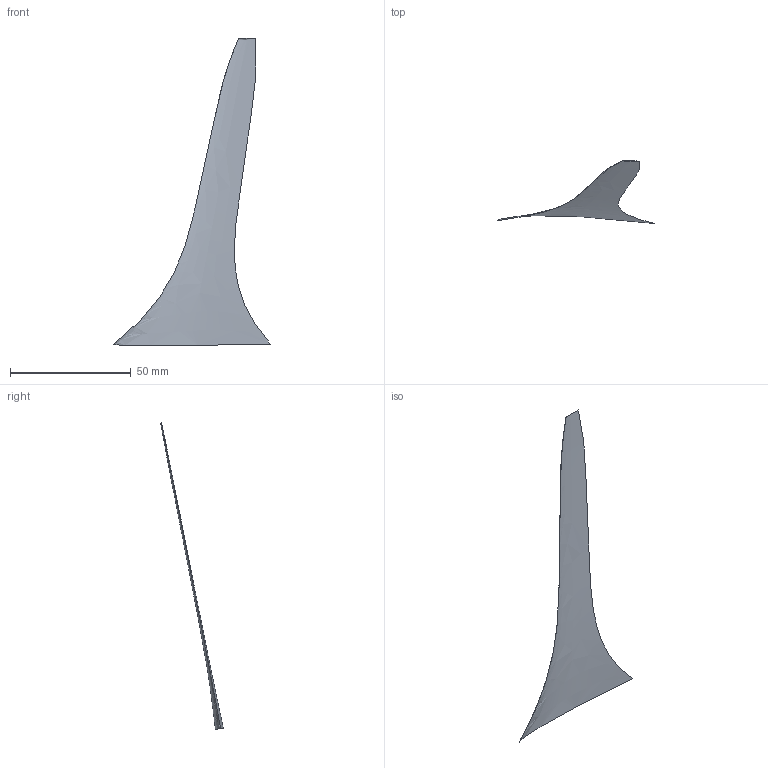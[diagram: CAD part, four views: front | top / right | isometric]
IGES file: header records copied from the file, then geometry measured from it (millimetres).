
Start section: This file was written from GridTool (For more information see ht tp://geolab.larc.nasa.gov/GridTool) or contact GridTool author: Jamshid Samareh (j.a.samareh@larc.nasa.gov)
Global section: file name: 47H/usr2/people/rosen/nets_pact/mx12_igs/wngl.igs; native system: Jamshid_system(j.a.samareh@larc.nasa.gov); preprocessor: V.0.0.0.0.0; author: Jamshid_Samareh; organization: CSC; date: 970923.220935; units: inch
Bounding box: 64.99 x 25.89 x 127.25 mm (x, y, z)
Surface area: 2875.9 mm2 (no closed solid volume)
Topology: 0 solids, 0 shells, 1 faces, 4 edges, 4 vertices
Faces by surface type: bspline 1
